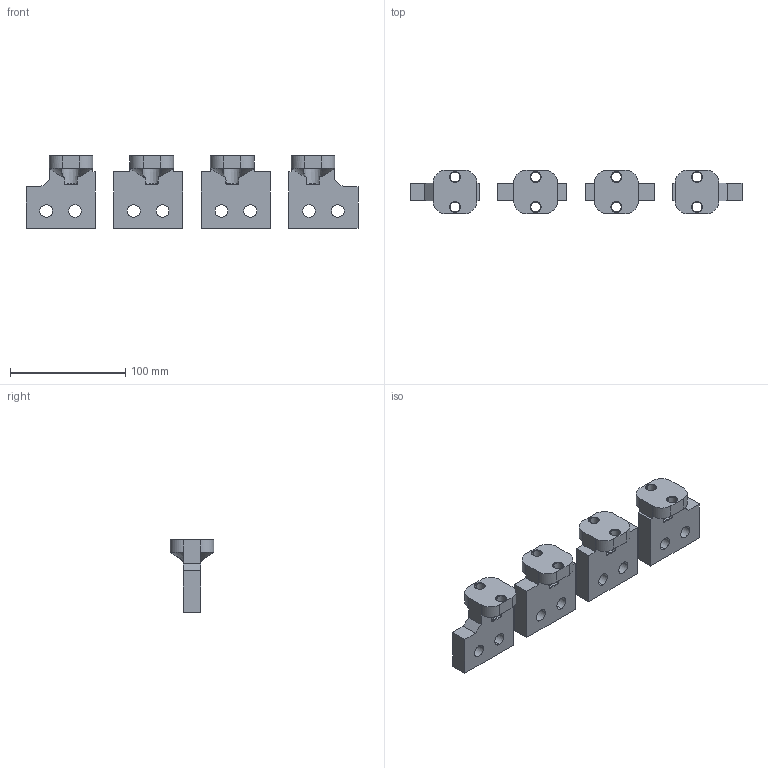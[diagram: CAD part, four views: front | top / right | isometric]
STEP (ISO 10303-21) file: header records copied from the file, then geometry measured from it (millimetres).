
FILE_DESCRIPTION (( 'STEP AP203' ), '1' );
FILE_NAME ('Âûâîäû ãîðèç. íèæíèå äëÿ âûêàòíîãî íà 1250-1600À 4P.STEP', '2024-06-25T10:14:01', ( '' ), ( '' ), 'SwSTEP 2.0', 'SolidWorks 2018', '' );
FILE_SCHEMA (( 'CONFIG_CONTROL_DESIGN' ));
Length unit declared in the file: millimetre
Products named in the file (1): Âûâîäû ãîðèç. íèæíèå äëÿ âûêàòíîãî íà 1250-1600À 4P
Bounding box: 288 x 38 x 63 mm (x, y, z)
Volume: 219973.4 mm3; surface area: 53238.5 mm2
Topology: 4 solids, 4 shells, 256 faces, 654 edges, 406 vertices
Faces by surface type: bspline 94, plane 82, cylinder 56, cone 24
Entity records: 21369 total; most frequent: CARTESIAN_POINT 15671, ORIENTED_EDGE 1308, DIRECTION 966, EDGE_CURVE 654, VERTEX_POINT 406, AXIS2_PLACEMENT_3D 355, EDGE_LOOP 288, FACE_OUTER_BOUND 256
